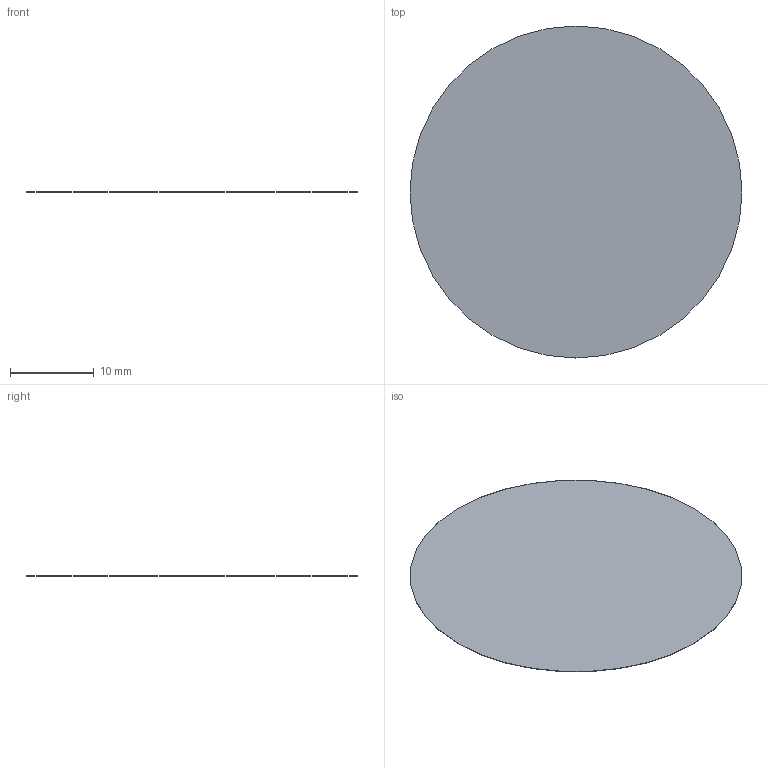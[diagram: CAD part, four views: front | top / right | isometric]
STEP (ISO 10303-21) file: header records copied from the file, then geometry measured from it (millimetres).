
FILE_DESCRIPTION(/* description */ (''),/* implementation_level */ '2;1');
FILE_NAME(/* name */ 'C27_R2_Speaker_Acoustic_Mesh.step',/* time_stamp */ '2026-09-10T17:49:04-07:00',/* author */ (''),/* organization */ (''),/* preprocessor_version */ 'ST-DEVELOPER v20.1',/* originating_system */ 'Autodesk Translation Framework v15.8.0.0',/* authorisation */ '');
FILE_SCHEMA (('AUTOMOTIVE_DESIGN { 1 0 10303 214 3 1 1 }'));
Length unit declared in the file: millimetre
Products named in the file (1): 2026-09-10-17-49-04-969
Bounding box: 39.6 x 39.6 x 0.05 mm (x, y, z)
Volume: 61.6 mm3; surface area: 2469.5 mm2
Topology: 1 solids, 1 shells, 3 faces, 3 edges, 2 vertices
Faces by surface type: plane 2, cylinder 1
Full cylindrical faces by diameter (mm): 39.6 x1
Entity records: 92 total; most frequent: DIRECTION 13, CARTESIAN_POINT 9, ORIENTED_EDGE 6, AXIS2_PLACEMENT_3D 6, FACE_OUTER_BOUND 3, EDGE_LOOP 3, EDGE_CURVE 3, ADVANCED_FACE 3
